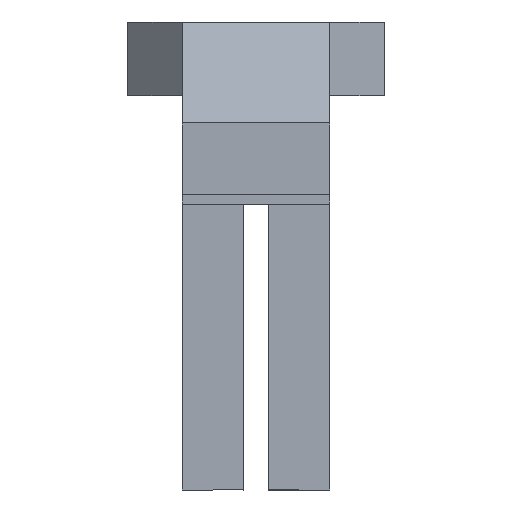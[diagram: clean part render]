
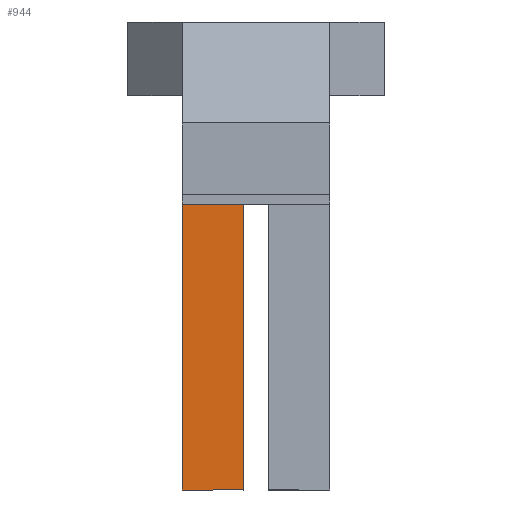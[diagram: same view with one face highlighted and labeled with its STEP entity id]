
A CAD part, left-side view. The second image highlights one B-rep face of the part: STEP entity #944.
In plain terms, the highlighted planar face has unit normal (-1, 0, 0).
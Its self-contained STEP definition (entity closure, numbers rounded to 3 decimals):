
#81 = DIRECTION ( 'NONE',  ( 0., 0., -1. ) ) ;
#238 = CARTESIAN_POINT ( 'NONE',  ( -57., 15., 47.5 ) ) ;
#254 = CARTESIAN_POINT ( 'NONE',  ( -57., -37.5, 10.5 ) ) ;
#310 = CARTESIAN_POINT ( 'NONE',  ( -57., -37.5, -47.5 ) ) ;
#354 = VERTEX_POINT ( 'NONE', #1550 ) ;
#366 = VERTEX_POINT ( 'NONE', #691 ) ;
#383 = DIRECTION ( 'NONE',  ( 1., 0., 0. ) ) ;
#396 = LINE ( 'NONE', #238, #849 ) ;
#552 = EDGE_CURVE ( 'NONE', #354, #1338, #1251, .T. ) ;
#584 = ORIENTED_EDGE ( 'NONE', *, *, #1269, .F. ) ;
#643 = CARTESIAN_POINT ( 'NONE',  ( -57., 2.5, -47.5 ) ) ;
#691 = CARTESIAN_POINT ( 'NONE',  ( -57., 15., -47.5 ) ) ;
#741 = DIRECTION ( 'NONE',  ( 0., 1., 0. ) ) ;
#746 = CARTESIAN_POINT ( 'NONE',  ( -57., 2.5, -47.5 ) ) ;
#793 = DIRECTION ( 'NONE',  ( 0., 0., -1. ) ) ;
#845 = ORIENTED_EDGE ( 'NONE', *, *, #1750, .T. ) ;
#849 = VECTOR ( 'NONE', #1231, 1000. ) ;
#944 = ADVANCED_FACE ( 'NONE', ( #1778 ), #1077, .F. ) ;
#956 = DIRECTION ( 'NONE',  ( 0., 1., 0. ) ) ;
#963 = EDGE_CURVE ( 'NONE', #366, #1255, #396, .T. ) ;
#1077 = PLANE ( 'NONE',  #1199 ) ;
#1198 = EDGE_LOOP ( 'NONE', ( #584, #1774, #845, #1795 ) ) ;
#1199 = AXIS2_PLACEMENT_3D ( 'NONE', #1516, #383, #793 ) ;
#1231 = DIRECTION ( 'NONE',  ( 0., 0., 1. ) ) ;
#1251 = LINE ( 'NONE', #643, #1617 ) ;
#1255 = VERTEX_POINT ( 'NONE', #1408 ) ;
#1269 = EDGE_CURVE ( 'NONE', #1338, #366, #1461, .T. ) ;
#1338 = VERTEX_POINT ( 'NONE', #746 ) ;
#1390 = VECTOR ( 'NONE', #741, 1000. ) ;
#1403 = LINE ( 'NONE', #254, #1809 ) ;
#1408 = CARTESIAN_POINT ( 'NONE',  ( -57., 15., 10.5 ) ) ;
#1461 = LINE ( 'NONE', #310, #1390 ) ;
#1516 = CARTESIAN_POINT ( 'NONE',  ( -57., -37.5, 10.5 ) ) ;
#1550 = CARTESIAN_POINT ( 'NONE',  ( -57., 2.5, 10.5 ) ) ;
#1617 = VECTOR ( 'NONE', #81, 1000. ) ;
#1750 = EDGE_CURVE ( 'NONE', #354, #1255, #1403, .T. ) ;
#1774 = ORIENTED_EDGE ( 'NONE', *, *, #552, .F. ) ;
#1778 = FACE_OUTER_BOUND ( 'NONE', #1198, .T. ) ;
#1795 = ORIENTED_EDGE ( 'NONE', *, *, #963, .F. ) ;
#1809 = VECTOR ( 'NONE', #956, 1000. ) ;
